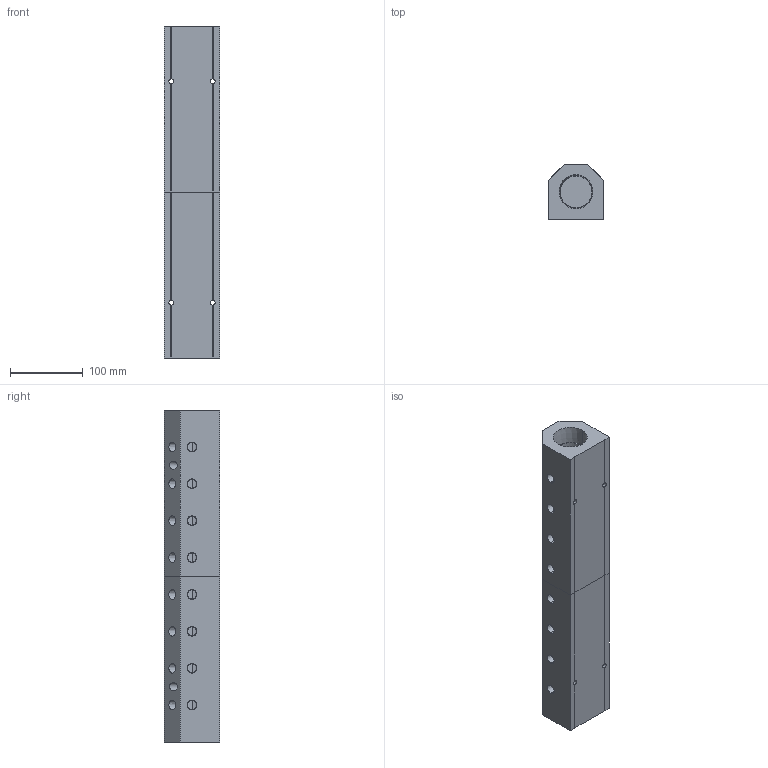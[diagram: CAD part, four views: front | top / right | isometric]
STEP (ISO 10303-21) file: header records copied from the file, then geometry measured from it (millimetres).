
FILE_DESCRIPTION (( 'STEP AP214' ), '1' );
FILE_NAME ('ALM8AB-N4N24-457RB.step', '2022-02-07T07:52:16', ( '' ), ( '' ), 'SwSTEP 2.0', 'SolidWorks 2020', '' );
FILE_SCHEMA (( 'AUTOMOTIVE_DESIGN' ));
Length unit declared in the file: millimetre
Products named in the file (1): ALM8AB-N4N24-457RB
Bounding box: 76.2 x 76.2 x 457 mm (x, y, z)
Volume: 1673131.3 mm3; surface area: 223701.1 mm2
Topology: 2 solids, 2 shells, 374 faces, 990 edges, 652 vertices
Faces by surface type: plane 259, bspline 59, cone 36, cylinder 20
Entity records: 20035 total; most frequent: CARTESIAN_POINT 7604, ORIENTED_EDGE 1980, DIRECTION 1528, EDGE_CURVE 990, VECTOR 752, LINE 752, VERTEX_POINT 652, EDGE_LOOP 446
